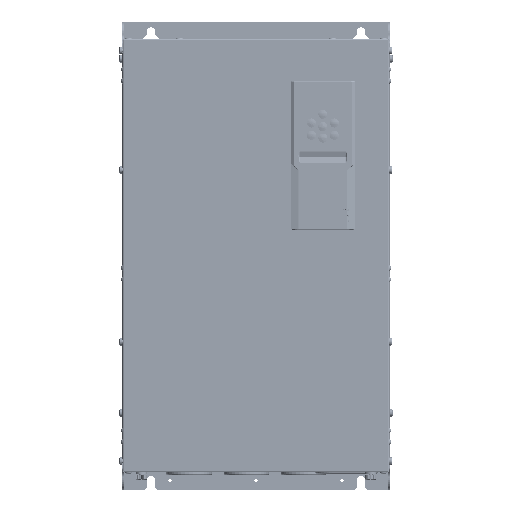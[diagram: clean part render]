
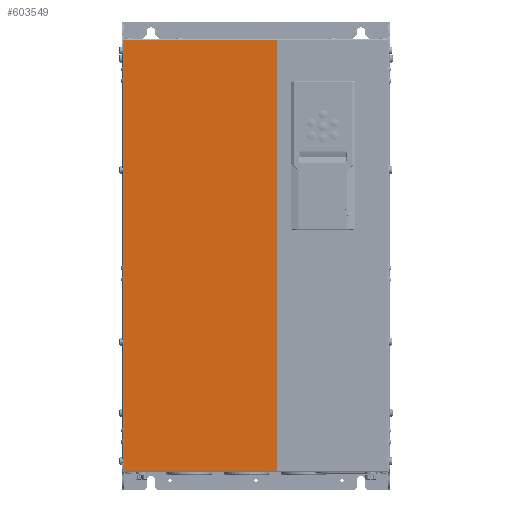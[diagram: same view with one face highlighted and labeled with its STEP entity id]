
A CAD part, top view. The second image highlights one B-rep face of the part: STEP entity #603549.
In plain terms, the highlighted planar face has unit normal (0, 0, 1).
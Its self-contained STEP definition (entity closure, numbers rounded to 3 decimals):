
#601831=DIRECTION('',(0.,-1.,0.));
#601832=VECTOR('',#601831,451.);
#601833=CARTESIAN_POINT('',(22.,450.5,145.5));
#601834=LINE('',#601833,#601832);
#601838=DIRECTION('',(-1.,0.,0.));
#601839=VECTOR('',#601838,160.);
#601840=CARTESIAN_POINT('',(22.,-0.5,145.5));
#601841=LINE('',#601840,#601839);
#601845=DIRECTION('',(-1.,0.,0.));
#601846=VECTOR('',#601845,160.);
#601847=CARTESIAN_POINT('',(22.,450.5,145.5));
#601848=LINE('',#601847,#601846);
#601888=DIRECTION('',(0.,1.,0.));
#601889=VECTOR('',#601888,451.);
#601890=CARTESIAN_POINT('',(-138.,-0.5,145.5));
#601891=LINE('',#601890,#601889);
#603081=CARTESIAN_POINT('',(22.,450.5,145.5));
#603082=CARTESIAN_POINT('',(22.,-0.5,145.5));
#603083=VERTEX_POINT('',#603081);
#603084=VERTEX_POINT('',#603082);
#603241=CARTESIAN_POINT('',(-138.,450.5,145.5));
#603242=VERTEX_POINT('',#603241);
#603246=CARTESIAN_POINT('',(-138.,-0.5,145.5));
#603248=VERTEX_POINT('',#603246);
#603537=CARTESIAN_POINT('',(-139.5,452.,145.5));
#603538=DIRECTION('',(0.,0.,1.));
#603539=DIRECTION('',(0.,-1.,0.));
#603540=AXIS2_PLACEMENT_3D('',#603537,#603538,#603539);
#603541=PLANE('',#603540);
#603542=ORIENTED_EDGE('',*,*,#603529,.T.);
#603543=ORIENTED_EDGE('',*,*,#603457,.T.);
#603545=ORIENTED_EDGE('',*,*,#603544,.T.);
#603546=ORIENTED_EDGE('',*,*,#603509,.F.);
#603547=EDGE_LOOP('',(#603542,#603543,#603545,#603546));
#603548=FACE_OUTER_BOUND('',#603547,.F.);
#603549=ADVANCED_FACE('',(#603548),#603541,.T.);
#603457=EDGE_CURVE('',#603084,#603248,#601841,.T.);
#603509=EDGE_CURVE('',#603083,#603242,#601848,.T.);
#603529=EDGE_CURVE('',#603083,#603084,#601834,.T.);
#603544=EDGE_CURVE('',#603248,#603242,#601891,.T.);
